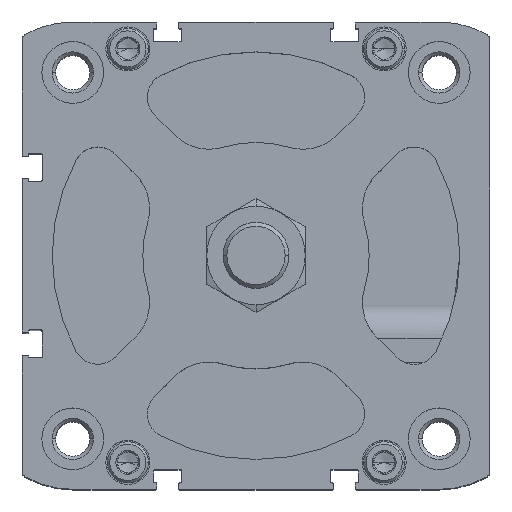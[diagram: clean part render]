
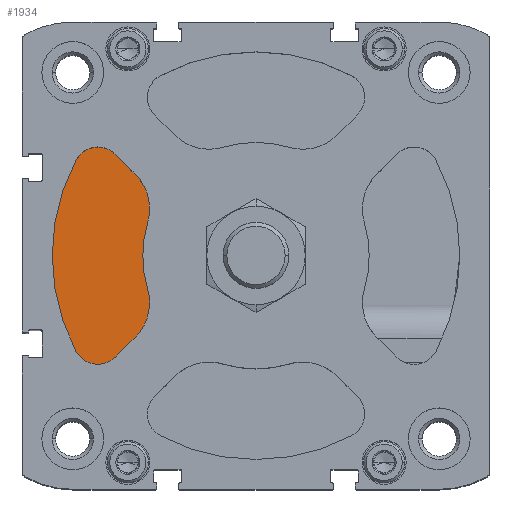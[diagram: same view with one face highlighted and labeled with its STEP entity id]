
A CAD part, top view. The second image highlights one B-rep face of the part: STEP entity #1934.
In plain terms, the highlighted planar face has unit normal (0, 0, 1).
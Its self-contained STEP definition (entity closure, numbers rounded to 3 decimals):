
#374 = DIRECTION ( 'NONE',  ( 0., 0., 1. ) ) ;
#425 = DIRECTION ( 'NONE',  ( 0., 0., 1. ) ) ;
#608 = CARTESIAN_POINT ( 'NONE',  ( -29.356, -19.81, -18.8 ) ) ;
#689 = AXIS2_PLACEMENT_3D ( 'NONE', #8732, #17651, #19250 ) ;
#699 = VERTEX_POINT ( 'NONE', #989 ) ;
#989 = CARTESIAN_POINT ( 'NONE',  ( -43.724, 23.205, -18.8 ) ) ;
#1059 = DIRECTION ( 'NONE',  ( 0., 0., 1. ) ) ;
#1934 = ADVANCED_FACE ( 'NONE', ( #11064 ), #14268, .T. ) ;
#1986 = EDGE_LOOP ( 'NONE', ( #21985, #7759, #17762, #11002, #22134, #4475, #9800, #17412, #3454 ) ) ;
#2148 = VERTEX_POINT ( 'NONE', #21934 ) ;
#2240 = DIRECTION ( 'NONE',  ( 0.707, 0.707, 0. ) ) ;
#2720 = CARTESIAN_POINT ( 'NONE',  ( -43.724, -23.205, -18.8 ) ) ;
#3354 = DIRECTION ( 'NONE',  ( 0., 1., 0. ) ) ;
#3454 = ORIENTED_EDGE ( 'NONE', *, *, #9663, .T. ) ;
#3655 = AXIS2_PLACEMENT_3D ( 'NONE', #4709, #6757, #13629 ) ;
#4111 = CARTESIAN_POINT ( 'NONE',  ( -26.345, 7.885, -18.8 ) ) ;
#4370 = CARTESIAN_POINT ( 'NONE',  ( -37.842, 11.325, -18.8 ) ) ;
#4475 = ORIENTED_EDGE ( 'NONE', *, *, #9111, .T. ) ;
#4709 = CARTESIAN_POINT ( 'NONE',  ( -37.842, -11.325, -18.8 ) ) ;
#4760 = DIRECTION ( 'NONE',  ( 0., 1., 0. ) ) ;
#4906 = VERTEX_POINT ( 'NONE', #15713 ) ;
#5374 = LINE ( 'NONE', #12140, #17505 ) ;
#5455 = VERTEX_POINT ( 'NONE', #2720 ) ;
#5688 = VERTEX_POINT ( 'NONE', #608 ) ;
#5893 = CARTESIAN_POINT ( 'NONE',  ( -34.181, -24.635, -18.8 ) ) ;
#6505 = AXIS2_PLACEMENT_3D ( 'NONE', #13377, #22404, #6627 ) ;
#6627 = DIRECTION ( 'NONE',  ( 0., 1., 0. ) ) ;
#6757 = DIRECTION ( 'NONE',  ( 0., 0., 1. ) ) ;
#7652 = VERTEX_POINT ( 'NONE', #13700 ) ;
#7759 = ORIENTED_EDGE ( 'NONE', *, *, #11599, .T. ) ;
#8333 = CIRCLE ( 'NONE', #6505, 6. ) ;
#8422 = CARTESIAN_POINT ( 'NONE',  ( 0., 0., -18.8 ) ) ;
#8732 = CARTESIAN_POINT ( 'NONE',  ( -38.424, -20.393, -18.8 ) ) ;
#8921 = AXIS2_PLACEMENT_3D ( 'NONE', #8422, #15287, #4760 ) ;
#8994 = CARTESIAN_POINT ( 'NONE',  ( 0., 0., -18.8 ) ) ;
#9044 = AXIS2_PLACEMENT_3D ( 'NONE', #14094, #374, #21069 ) ;
#9045 = AXIS2_PLACEMENT_3D ( 'NONE', #4370, #1059, #12837 ) ;
#9111 = EDGE_CURVE ( 'NONE', #12148, #4906, #19628, .T. ) ;
#9663 = EDGE_CURVE ( 'NONE', #2148, #699, #8333, .T. ) ;
#9800 = ORIENTED_EDGE ( 'NONE', *, *, #12064, .T. ) ;
#10722 = CARTESIAN_POINT ( 'NONE',  ( -34.181, -24.635, -18.8 ) ) ;
#10841 = CARTESIAN_POINT ( 'NONE',  ( -34.181, 24.635, -18.8 ) ) ;
#11002 = ORIENTED_EDGE ( 'NONE', *, *, #13217, .T. ) ;
#11064 = FACE_OUTER_BOUND ( 'NONE', #1986, .T. ) ;
#11193 = VECTOR ( 'NONE', #2240, 1000. ) ;
#11599 = EDGE_CURVE ( 'NONE', #5455, #22093, #12381, .T. ) ;
#12061 = CIRCLE ( 'NONE', #18645, 6. ) ;
#12064 = EDGE_CURVE ( 'NONE', #4906, #21602, #5374, .T. ) ;
#12140 = CARTESIAN_POINT ( 'NONE',  ( -29.356, 19.81, -18.8 ) ) ;
#12148 = VERTEX_POINT ( 'NONE', #4111 ) ;
#12212 = CIRCLE ( 'NONE', #8921, 49.5 ) ;
#12381 = CIRCLE ( 'NONE', #689, 6. ) ;
#12442 = DIRECTION ( 'NONE',  ( 1., 0., 0. ) ) ;
#12837 = DIRECTION ( 'NONE',  ( 0., 1., 0. ) ) ;
#12953 = EDGE_CURVE ( 'NONE', #21602, #2148, #12061, .T. ) ;
#13217 = EDGE_CURVE ( 'NONE', #5688, #7652, #13531, .T. ) ;
#13327 = DIRECTION ( 'NONE',  ( 0., 0., 1. ) ) ;
#13377 = CARTESIAN_POINT ( 'NONE',  ( -38.424, 20.393, -18.8 ) ) ;
#13531 = CIRCLE ( 'NONE', #3655, 12. ) ;
#13629 = DIRECTION ( 'NONE',  ( 0., 1., 0. ) ) ;
#13700 = CARTESIAN_POINT ( 'NONE',  ( -26.345, -7.885, -18.8 ) ) ;
#14094 = CARTESIAN_POINT ( 'NONE',  ( 0., 0., -18.8 ) ) ;
#14156 = CIRCLE ( 'NONE', #9044, 27.5 ) ;
#14268 = PLANE ( 'NONE',  #16091 ) ;
#15287 = DIRECTION ( 'NONE',  ( 0., 0., 1. ) ) ;
#15713 = CARTESIAN_POINT ( 'NONE',  ( -29.356, 19.81, -18.8 ) ) ;
#16088 = EDGE_CURVE ( 'NONE', #699, #5455, #12212, .T. ) ;
#16091 = AXIS2_PLACEMENT_3D ( 'NONE', #8994, #425, #12442 ) ;
#17412 = ORIENTED_EDGE ( 'NONE', *, *, #12953, .T. ) ;
#17505 = VECTOR ( 'NONE', #19116, 1000. ) ;
#17651 = DIRECTION ( 'NONE',  ( 0., 0., 1. ) ) ;
#17762 = ORIENTED_EDGE ( 'NONE', *, *, #19276, .T. ) ;
#17924 = LINE ( 'NONE', #10722, #11193 ) ;
#18645 = AXIS2_PLACEMENT_3D ( 'NONE', #19037, #13327, #3354 ) ;
#19037 = CARTESIAN_POINT ( 'NONE',  ( -38.424, 20.393, -18.8 ) ) ;
#19116 = DIRECTION ( 'NONE',  ( -0.707, 0.707, 0. ) ) ;
#19250 = DIRECTION ( 'NONE',  ( 0., 1., 0. ) ) ;
#19276 = EDGE_CURVE ( 'NONE', #22093, #5688, #17924, .T. ) ;
#19628 = CIRCLE ( 'NONE', #9045, 12. ) ;
#20816 = EDGE_CURVE ( 'NONE', #12148, #7652, #14156, .T. ) ;
#21069 = DIRECTION ( 'NONE',  ( 0., 1., 0. ) ) ;
#21602 = VERTEX_POINT ( 'NONE', #10841 ) ;
#21934 = CARTESIAN_POINT ( 'NONE',  ( -38.424, 26.393, -18.8 ) ) ;
#21985 = ORIENTED_EDGE ( 'NONE', *, *, #16088, .T. ) ;
#22093 = VERTEX_POINT ( 'NONE', #5893 ) ;
#22134 = ORIENTED_EDGE ( 'NONE', *, *, #20816, .F. ) ;
#22404 = DIRECTION ( 'NONE',  ( 0., 0., 1. ) ) ;
